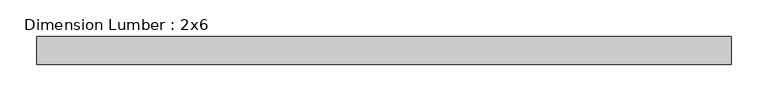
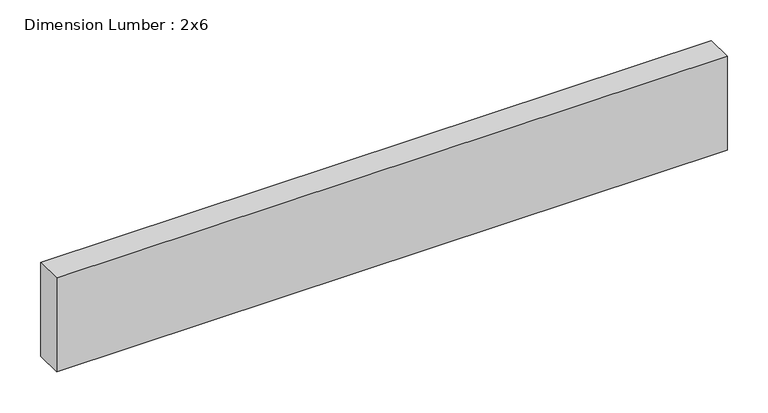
"""IFC4 building model written with IfcOpenShell, lengths in millimetres: beam geometry, Dimension Lumber : 2x6."""

from ifc_helpers import new_model, si_unit, frame, origin, place, context, project, spatial, polyline, outline, extrude, source, transform, mapped, element, save


def dimension_lumber_2x6_6c31f0c9(model_context):
    return source(origin(), model_context, "Body", "SweptSolid", [
        extrude(outline(polyline([(472.6708262, 19.05), (472.6708262, -19.05), (-472.6708262, -19.05), (-472.6708262, 19.05), (472.6708262, 19.05)])), frame((0.0, 0.0, -69.85), z_axis=(0.0, 0.0, 1.0), x_axis=(1.0, 0.0, 0.0)), (0.0, 0.0, 1.0), 139.7),
    ])


if __name__ == "__main__":
    model = new_model("IFC4")
    model_context = context("Model", 3, world=origin())
    ifc_project = project(units=[si_unit("LENGTHUNIT", "METRE", prefix="MILLI")], contexts=[model_context])
    site = spatial("IfcSite", under=ifc_project)
    building = spatial("IfcBuilding", under=site)
    placement = place(None, origin())
    dimension_lumber_2x6_shape = dimension_lumber_2x6_6c31f0c9(model_context)
    element("IfcBeam", 1, ObjectType="Dimension Lumber : 2x6", at=placement, inside=building, context=model_context, shape_type="MappedRepresentation", body=[
        mapped(dimension_lumber_2x6_shape, transform((0.0, 0.0, 0.0), x_axis=(1.0, 0.0, 0.0), y_axis=(0.0, 1.0, 0.0), z_axis=(0.0, 0.0, 1.0))),
    ])
    save(model, "model.ifc")
